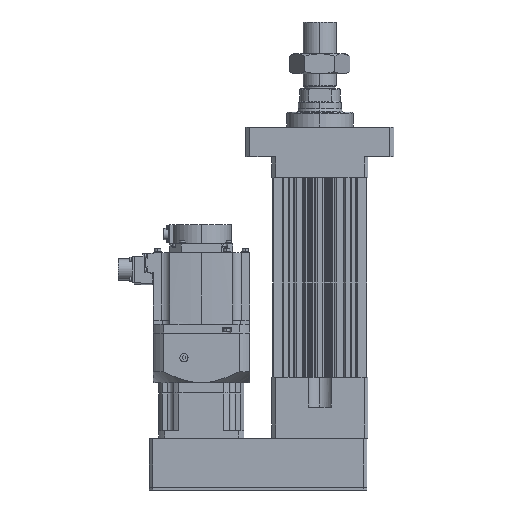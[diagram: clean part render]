
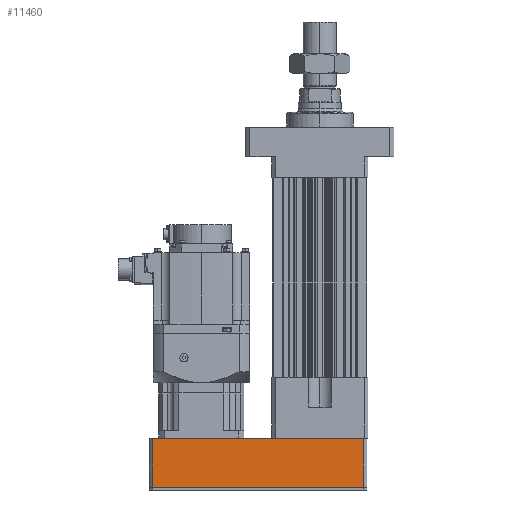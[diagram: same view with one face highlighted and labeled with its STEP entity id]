
A CAD part, left-side view. The second image highlights one B-rep face of the part: STEP entity #11460.
In plain terms, the highlighted planar face has unit normal (-1, 0, 0).
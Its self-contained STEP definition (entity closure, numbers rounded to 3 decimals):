
#867 = CARTESIAN_POINT ( 'NONE',  ( -63.5, -59., -149. ) ) ;
#1273 = EDGE_CURVE ( 'NONE', #9414, #7903, #23288, .T. ) ;
#1889 = DIRECTION ( 'NONE',  ( 0., -1., 0. ) ) ;
#3173 = EDGE_CURVE ( 'NONE', #9414, #22402, #21356, .T. ) ;
#5499 = CARTESIAN_POINT ( 'NONE',  ( -63.5, 226., -149. ) ) ;
#5730 = ORIENTED_EDGE ( 'NONE', *, *, #3173, .T. ) ;
#5924 = CARTESIAN_POINT ( 'NONE',  ( -63.5, 226., -82.5 ) ) ;
#7903 = VERTEX_POINT ( 'NONE', #5924 ) ;
#9243 = LINE ( 'NONE', #11183, #29331 ) ;
#9414 = VERTEX_POINT ( 'NONE', #14621 ) ;
#10832 = DIRECTION ( 'NONE',  ( 0., 0., 1. ) ) ;
#11183 = CARTESIAN_POINT ( 'NONE',  ( -63.5, 226., -82.5 ) ) ;
#11206 = VERTEX_POINT ( 'NONE', #18177 ) ;
#11460 = ADVANCED_FACE ( 'NONE', ( #23464 ), #30258, .F. ) ;
#14094 = DIRECTION ( 'NONE',  ( 0., 0., -1. ) ) ;
#14621 = CARTESIAN_POINT ( 'NONE',  ( -63.5, 226., -148.5 ) ) ;
#14699 = VECTOR ( 'NONE', #15731, 1000. ) ;
#15731 = DIRECTION ( 'NONE',  ( 0., 0., 1. ) ) ;
#17984 = EDGE_CURVE ( 'NONE', #22402, #11206, #31867, .T. ) ;
#18177 = CARTESIAN_POINT ( 'NONE',  ( -63.5, -59., -82.5 ) ) ;
#18367 = AXIS2_PLACEMENT_3D ( 'NONE', #867, #30482, #14094 ) ;
#21356 = LINE ( 'NONE', #23298, #26796 ) ;
#21949 = ORIENTED_EDGE ( 'NONE', *, *, #27933, .T. ) ;
#22402 = VERTEX_POINT ( 'NONE', #28392 ) ;
#23288 = LINE ( 'NONE', #5499, #34205 ) ;
#23298 = CARTESIAN_POINT ( 'NONE',  ( -63.5, -59., -148.5 ) ) ;
#23464 = FACE_OUTER_BOUND ( 'NONE', #29677, .T. ) ;
#25448 = DIRECTION ( 'NONE',  ( 0., 1., 0. ) ) ;
#26796 = VECTOR ( 'NONE', #1889, 1000. ) ;
#27933 = EDGE_CURVE ( 'NONE', #11206, #7903, #9243, .T. ) ;
#28392 = CARTESIAN_POINT ( 'NONE',  ( -63.5, -59., -148.5 ) ) ;
#29331 = VECTOR ( 'NONE', #25448, 1000. ) ;
#29677 = EDGE_LOOP ( 'NONE', ( #31544, #5730, #30921, #21949 ) ) ;
#30258 = PLANE ( 'NONE',  #18367 ) ;
#30482 = DIRECTION ( 'NONE',  ( 1., 0., 0. ) ) ;
#30921 = ORIENTED_EDGE ( 'NONE', *, *, #17984, .T. ) ;
#31544 = ORIENTED_EDGE ( 'NONE', *, *, #1273, .F. ) ;
#31649 = CARTESIAN_POINT ( 'NONE',  ( -63.5, -59., -149. ) ) ;
#31867 = LINE ( 'NONE', #31649, #14699 ) ;
#34205 = VECTOR ( 'NONE', #10832, 1000. ) ;
